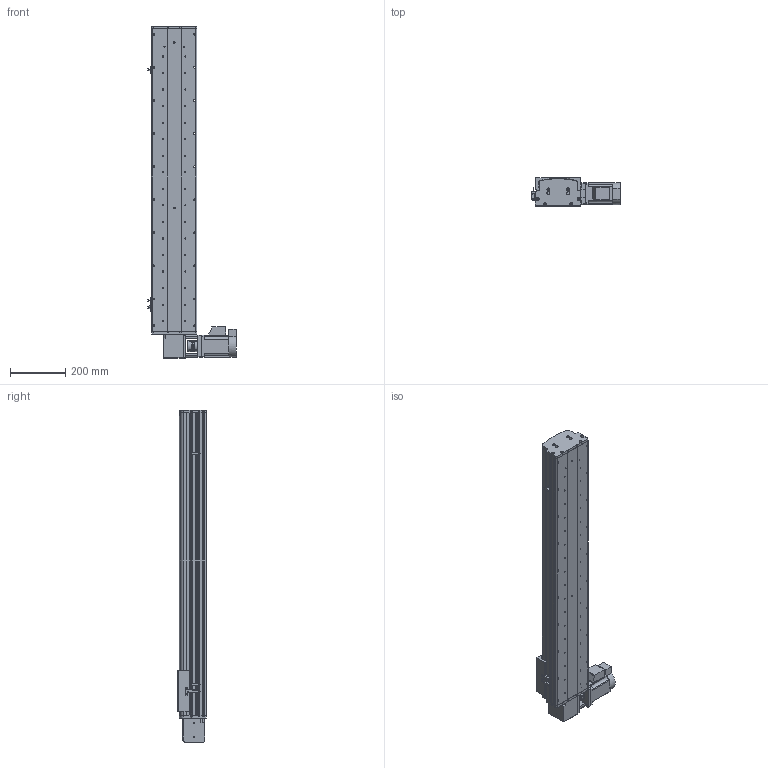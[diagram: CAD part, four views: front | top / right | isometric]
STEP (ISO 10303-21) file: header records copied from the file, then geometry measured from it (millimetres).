
FILE_DESCRIPTION (( 'STEP AP214' ), '1' );
FILE_NAME ('KSD165B-S850-MRT-CM .STEP', '2017-08-14T05:55:39', ( '微软用户' ), ( '微软中国' ), 'SwSTEP 2.0', 'SolidWorks 2014', '' );
FILE_SCHEMA (( 'AUTOMOTIVE_DESIGN' ));
Length unit declared in the file: millimetre
Products named in the file (16): 165宽马达安装板同步带右; C39ㄜ1419WP; U倰嫖萇假蚾璃; U倰嫖萇EEㄜSX672; 覜茼え68遵圉猾敕; KSD165模组-同步带-防撞垫2; KSD165模组同步带-防撞垫1; KSD165耀郪-ヶ傷啣1-肮祭湍; KSD165模组-后端板1-同步带; 130宽马达安装板1-带电机座750W（1）; KSD165模组-同步带滑动座-最新版; KSD165B-S850-MRT-CM ; KSD165模组-同步带防尘盖1-850行程-最新版; KSD165模组同步带底板-850行程-最新; 拸秶雄ん750W侜督萇儂; 165宽安装板同步带带电机座750W
Assembly tree (19 placements, depth 2):
  KSD165B-S850-MRT-CM 
    KSD165模组-同步带滑动座-最新版
    130宽马达安装板1-带电机座750W（1）
    KSD165模组-后端板1-同步带
    KSD165耀郪-ヶ傷啣1-肮祭湍
    KSD165模组同步带-防撞垫1
    KSD165模组-同步带-防撞垫2
    覜茼え68遵圉猾敕
    U倰嫖萇EEㄜSX672  x3
    U倰嫖萇假蚾璃  x3
    C39ㄜ1419WP
    165宽马达安装板同步带右
    165宽安装板同步带带电机座750W
    拸秶雄ん750W侜督萇儂
    KSD165模组同步带底板-850行程-最新
    KSD165模组-同步带防尘盖1-850行程-最新版
Bounding box: 321.2 x 104 x 1204 mm (x, y, z)
Volume: 7207254.8 mm3; surface area: 1622227 mm2
Topology: 20 solids, 20 shells, 1492 faces, 4152 edges, 2689 vertices
Faces by surface type: cylinder 819, plane 579, cone 94
Entity records: 47471 total; most frequent: CARTESIAN_POINT 9965, DIRECTION 7378, ORIENTED_EDGE 6956, EDGE_CURVE 3478, AXIS2_PLACEMENT_3D 2806, VERTEX_POINT 2281, LINE 1766, VECTOR 1766
